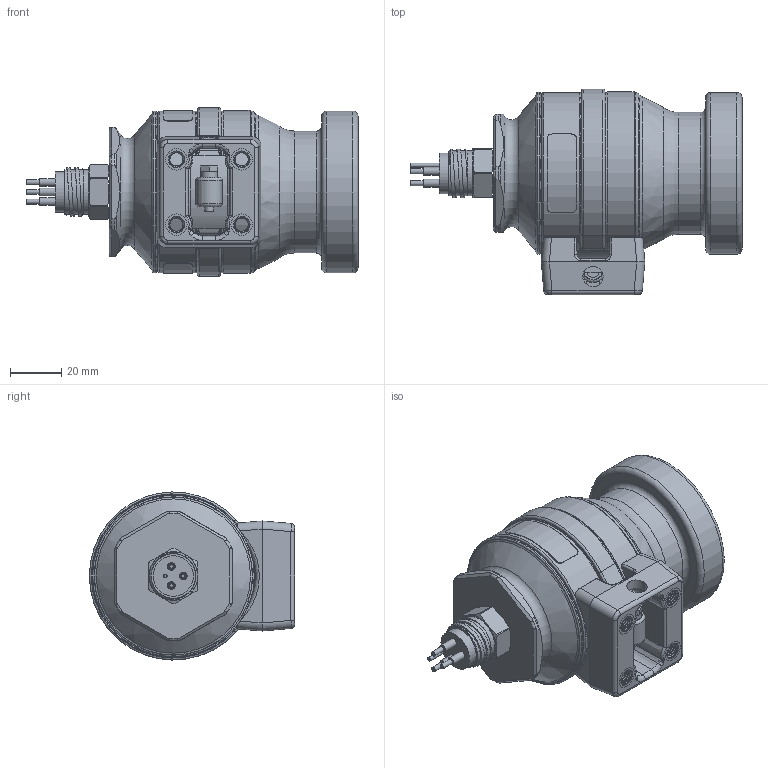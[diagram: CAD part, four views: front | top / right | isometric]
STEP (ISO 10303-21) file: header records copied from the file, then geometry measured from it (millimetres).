
FILE_DESCRIPTION (( 'STEP AP214' ), '1' );
FILE_NAME ('LSL-WFD-AL-A-B-SB-MCBH3-0B_20171107a.STEP', '2017-11-07T23:34:53', ( '' ), ( '' ), 'SwSTEP 2.0', 'SolidWorks 2017', '' );
FILE_SCHEMA (( 'AUTOMOTIVE_DESIGN' ));
Length unit declared in the file: millimetre
Products named in the file (1): LSL-WFD-AL-A-B-SB-MCBH3-0B_20171107a
Bounding box: 129.31 x 80 x 65.49 mm (x, y, z)
Surface area: 43114.6 mm2 (no closed solid volume)
Topology: 0 solids, 18 shells, 388 faces, 1082 edges, 700 vertices
Faces by surface type: cylinder 146, plane 85, bspline 67, torus 54, cone 30, sphere 6
Full cylindrical faces by diameter (mm): 1.524 x1, 1.943 x3, 3.048 x3, 3.454 x1, 5.105 x52, 6.35 x1, 7.938 x1, 15.748 x1, 17.475 x1, 47.5 x1, 57.1 x2, 62.23 x1, 62.992 x4
Entity records: 28246 total; most frequent: CARTESIAN_POINT 17177, ORIENTED_EDGE 1430, DIRECTION 1405, EDGE_CURVE 849, AXIS2_PLACEMENT_3D 591, VERTEX_POINT 590, EDGE_LOOP 427, FACE_OUTER_BOUND 383
